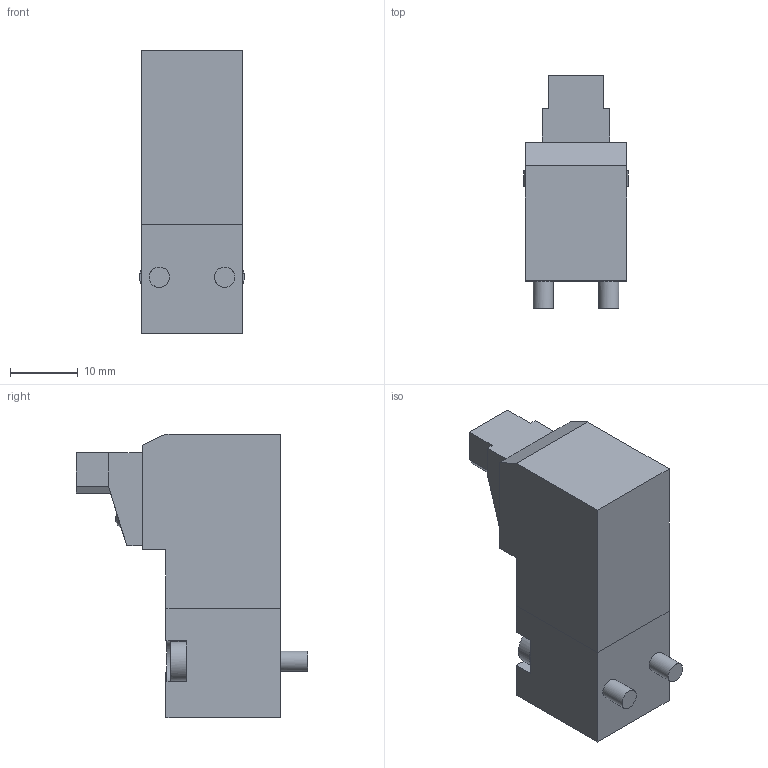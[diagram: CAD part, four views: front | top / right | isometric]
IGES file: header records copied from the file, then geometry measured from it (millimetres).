
Global section: file name: N3##_6L#-8; native system: Autodesk Inventor 2014; preprocessor: unknown; author: A. Manieri; organization: Pneumax S.p.A.; date: 20160913.134753; units: millimetre
Bounding box: 15.5 x 34.3 x 42 mm (x, y, z)
Volume: 12224.5 mm3; surface area: 4088.5 mm2
Topology: 1 solids, 1 shells, 95 faces, 243 edges, 159 vertices
Faces by surface type: bspline 95
